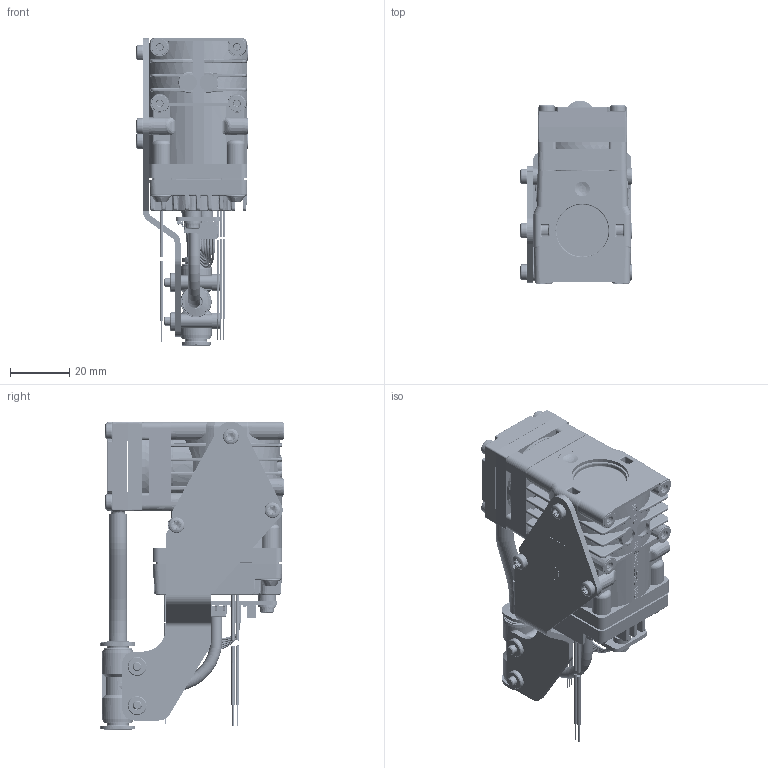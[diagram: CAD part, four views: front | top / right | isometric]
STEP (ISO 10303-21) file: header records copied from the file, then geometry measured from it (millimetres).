
FILE_DESCRIPTION((''),'2;1');
FILE_NAME('CAD1194275_SW','2026-09-15T13:16:10',('LuternauerR'),('KNF Flodos AG, 6210 Sursee, Switzerland'),'CREO PARAMETRIC BY PTC INC, 2025010','CREO PARAMETRIC BY PTC INC, 2025010','');
FILE_SCHEMA(('AP242_MANAGED_MODEL_BASED_3D_ENGINEERING_MIM_LF { 1 0 10303 442 1 1 4 }'));
Products named in the file (1): CAD1194275_SW
Bounding box: 37.7 x 61.74 x 103.95 mm (x, y, z)
Volume: 91262.3 mm3; surface area: 38266.7 mm2
Topology: 10 solids, 12 shells, 5952 faces, 15537 edges, 9724 vertices
Faces by surface type: plane 2852, cylinder 1353, bspline 671, extrusion 309, cone 294, torus 282, sphere 191
Full cylindrical faces by diameter (mm): 0.4 x1
Entity records: 324038 total; most frequent: CARTESIAN_POINT 145188, ORIENTED_EDGE 30986, DIRECTION 26047, EDGE_CURVE 15493, VERTEX_POINT 9724, VECTOR 9287, LINE 8978, AXIS2_PLACEMENT_3D 8380
